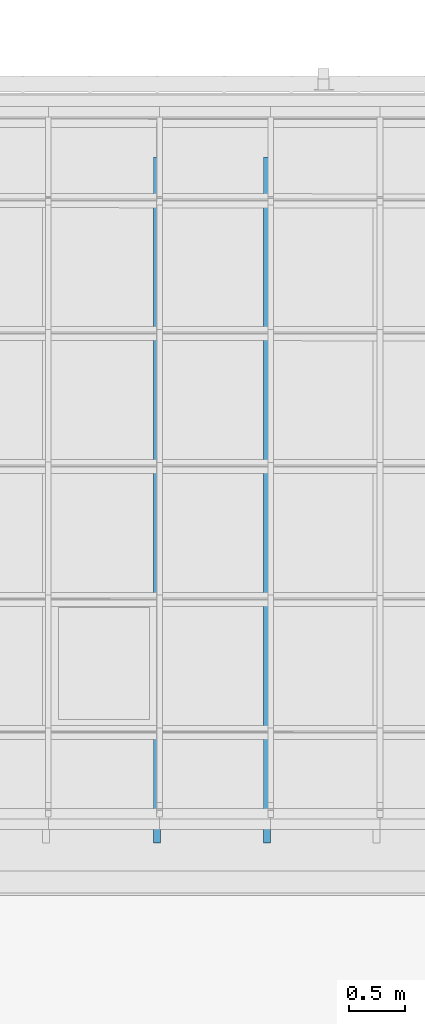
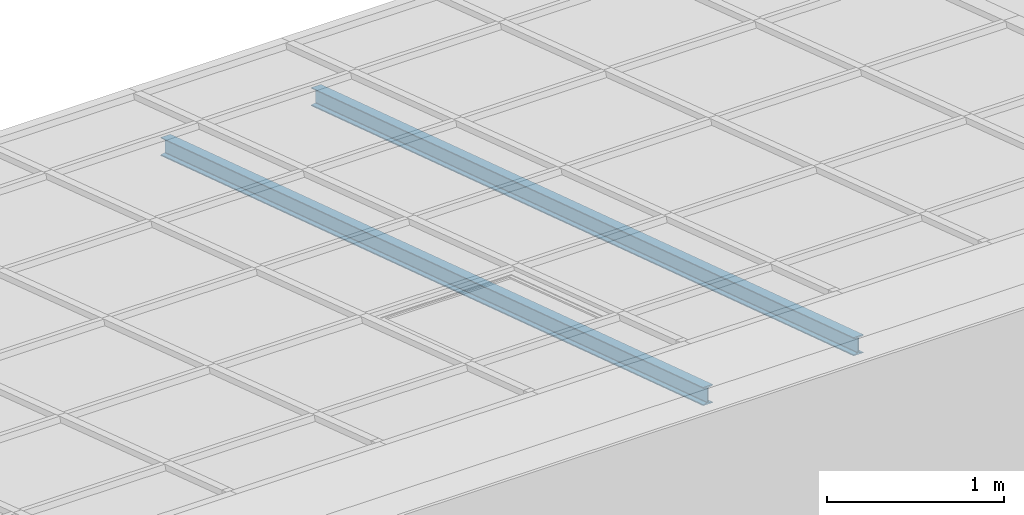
# One storey, part 11 of 47: 2 beams.
"""IFC2X3 building model written with IfcOpenShell, lengths in millimetres."""

from ifc_helpers import new_model, entity, si_unit, converted_unit, derived_unit, money_unit, point, direction, frame, frame_2d, origin_with_axes, place, context, subcontext, project, spatial, polyline, circle_curve, parameter, trimmed, segment, composite_curve, outline, extrude, clip, halfspace, material, type_object, element, save


model = new_model("IFC2X3")

# Units and contexts
model_context = context("Model", 3, precision=1e-05, world=origin_with_axes(), true_north=direction((0.0, 1.0)))
body_context = subcontext(model_context, "Body", "Model", "MODEL_VIEW")
ifc_project = project(units=[si_unit("LENGTHUNIT", "METRE", prefix="MILLI"), si_unit("AREAUNIT", "SQUARE_METRE"), si_unit("VOLUMEUNIT", "CUBIC_METRE"), converted_unit("PLANEANGLEUNIT", "DEGREE", entity("IfcPlaneAngleMeasure", 0.0174532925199), si_unit("PLANEANGLEUNIT", "RADIAN"), dimensions=[0, 0, 0, 0, 0, 0, 0]), si_unit("SOLIDANGLEUNIT", "STERADIAN"), money_unit("EUR"), converted_unit("TIMEUNIT", "Year", entity("IfcTimeMeasure", 31556926.0), si_unit("TIMEUNIT", "SECOND"), dimensions=[0, 0, 1, 0, 0, 0, 0]), si_unit("MASSUNIT", "GRAM", prefix="KILO"), si_unit("THERMODYNAMICTEMPERATUREUNIT", "DEGREE_CELSIUS"), si_unit("LUMINOUSINTENSITYUNIT", "LUMEN"), si_unit("ENERGYUNIT", "JOULE", prefix="MEGA"), derived_unit("THERMALCONDUCTANCEUNIT", [(si_unit("POWERUNIT", "WATT"), 1), (si_unit("LENGTHUNIT", "METRE"), -1), (si_unit("THERMODYNAMICTEMPERATUREUNIT", "KELVIN"), -1)]), derived_unit("SPECIFICHEATCAPACITYUNIT", [(si_unit("ENERGYUNIT", "JOULE"), 1), (si_unit("MASSUNIT", "GRAM", prefix="KILO"), -1), (si_unit("THERMODYNAMICTEMPERATUREUNIT", "KELVIN"), -1)]), derived_unit("MASSDENSITYUNIT", [(si_unit("MASSUNIT", "GRAM", prefix="KILO"), 1), (si_unit("VOLUMEUNIT", "CUBIC_METRE"), -1)])], contexts=[model_context])

# Site, building, storey
site_placement = place(None, origin_with_axes())
site = spatial("IfcSite", under=ifc_project, at=site_placement, Name="Site", CompositionType="ELEMENT")
building_placement = place(site_placement, origin_with_axes())
building = spatial("IfcBuilding", under=site, at=building_placement, Name="Building", CompositionType="ELEMENT")
storey_placement = place(building_placement, frame((0.0, 0.0, 6000.0), z_axis=(0.0, 0.0, 1.0), x_axis=(1.0, 0.0, 0.0)))
storey = spatial("IfcBuildingStorey", under=building, at=storey_placement, Name="KATUSEPLAAN", CompositionType="ELEMENT", Elevation=6000.0)

# Beams
ifc_material = material(Name="Teras (1)")
beam_type = type_object("IfcBeamType", Name="IPE 120", PredefinedType="NOTDEFINED")
beam_1_placement = place(storey_placement, frame((83889.081763, 46947.8063411, 711.763952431), z_axis=(0.0, 0.0, 1.0), x_axis=(-1.0, 0.0, 0.0)))
element("IfcBeam", 1, at=beam_1_placement, inside=storey, type_object=beam_type, material=ifc_material, Name="I Joist - Steel", ObjectType="I Joist - Steel 64 x 120", context=body_context, shape_type="Clipping", body=[
    clip(clip(extrude(outline(composite_curve([segment(polyline([(32.0018479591, -120.000212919), (32.0018479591, -117.505222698)]), True, "CONTINUOUS"), segment(trimmed(circle_curve(frame_2d((27.3321376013, -117.498683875), x_axis=(0.999999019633, -0.00140026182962)), 4.66971493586), [point((32.0018479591, -117.505222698)), parameter(0.0)], [point((31.7461003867, -115.974488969)), parameter(19.1306436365)], True, "CARTESIAN"), True, "CONTINUOUS"), segment(trimmed(circle_curve(frame_2d((27.8471066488, -117.309508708), x_axis=(0.94607823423, 0.323938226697)), 4.12121703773), [point((31.7461003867, -115.974488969)), parameter(0.0)], [point((31.017792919, -114.676795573)), parameter(20.802576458)], True, "CARTESIAN"), True, "CONTINUOUS"), segment(trimmed(circle_curve(frame_2d((28.4090653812, -116.837495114), x_axis=(0.770140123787, 0.637874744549)), 3.38734141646), [point((31.017792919, -114.676795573)), parameter(0.0)], [point((29.9278037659, -113.809704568)), parameter(23.7281511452)], True, "CARTESIAN"), True, "CONTINUOUS"), segment(trimmed(circle_curve(frame_2d((28.6333599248, -116.404648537), x_axis=(0.446378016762, 0.89484449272)), 2.89988259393), [point((29.9278037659, -113.809704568)), parameter(0.0)], [point((29.1110817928, -113.544386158)), parameter(17.0295027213)], True, "CARTESIAN"), True, "CONTINUOUS"), segment(polyline([(29.1110817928, -113.544386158), (5.24260801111, -109.566039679)]), True, "CONTINUOUS"), segment(trimmed(circle_curve(frame_2d((5.72032987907, -106.7057773), x_axis=(-0.446378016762, -0.89484449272)), 2.89988259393), [point((5.24260801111, -109.566039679)), parameter(17.0295027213)], [point((4.42588603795, -109.300721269)), parameter(0.0)], False, "CARTESIAN"), True, "CONTINUOUS"), segment(trimmed(circle_curve(frame_2d((5.94462442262, -106.272930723), x_axis=(-0.770140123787, -0.637874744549)), 3.38734141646), [point((4.42588603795, -109.300721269)), parameter(23.7281511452)], [point((3.33589688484, -108.433630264)), parameter(0.0)], False, "CARTESIAN"), True, "CONTINUOUS"), segment(trimmed(circle_curve(frame_2d((6.5065831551, -105.800917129), x_axis=(-0.94607823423, -0.323938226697)), 4.12121703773), [point((3.33589688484, -108.433630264)), parameter(20.802576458)], [point((2.60758941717, -107.135936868)), parameter(0.0)], False, "CARTESIAN"), True, "CONTINUOUS"), segment(trimmed(circle_curve(frame_2d((7.02155220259, -105.611741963), x_axis=(-0.999999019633, 0.00140026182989)), 4.66971493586), [point((2.60758941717, -107.135936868)), parameter(19.1306436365)], [point((2.35184184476, -105.605203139)), parameter(0.0)], False, "CARTESIAN"), True, "CONTINUOUS"), segment(polyline([(2.35184184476, -105.605203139), (2.35184184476, -14.3950097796)]), True, "CONTINUOUS"), segment(trimmed(circle_curve(frame_2d((7.02155220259, -14.3884709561), x_axis=(-0.945231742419, 0.326399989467)), 4.66971493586), [point((2.35184184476, -14.3950097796)), parameter(19.1306436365)], [point((2.60758941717, -12.8642760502)), parameter(0.0)], False, "CARTESIAN"), True, "CONTINUOUS"), segment(trimmed(circle_curve(frame_2d((6.5065831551, -14.1992957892), x_axis=(-0.769356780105, 0.638819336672)), 4.12121703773), [point((2.60758941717, -12.8642760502)), parameter(20.802576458)], [point((3.33589688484, -11.5665826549)), parameter(0.0)], False, "CARTESIAN"), True, "CONTINUOUS"), segment(trimmed(circle_curve(frame_2d((5.94462442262, -13.7272821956), x_axis=(-0.44835704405, 0.893854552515)), 3.38734141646), [point((3.33589688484, -11.5665826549)), parameter(23.7281511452)], [point((4.42588603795, -10.6994916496)), parameter(0.0)], False, "CARTESIAN"), True, "CONTINUOUS"), segment(trimmed(circle_curve(frame_2d((5.72032987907, -13.2944356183), x_axis=(-0.164738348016, 0.986337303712)), 2.89988259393), [point((4.42588603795, -10.6994916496)), parameter(17.0295027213)], [point((5.24260801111, -10.4341732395)), parameter(0.0)], False, "CARTESIAN"), True, "CONTINUOUS"), segment(polyline([(5.24260801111, -10.4341732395), (29.1110817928, -6.45582676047)]), True, "CONTINUOUS"), segment(trimmed(circle_curve(frame_2d((28.6333599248, -3.59556438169), x_axis=(0.164738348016, -0.986337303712)), 2.89988259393), [point((29.1110817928, -6.45582676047)), parameter(0.0)], [point((29.9278037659, -6.19050835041)), parameter(17.0295027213)], True, "CARTESIAN"), True, "CONTINUOUS"), segment(trimmed(circle_curve(frame_2d((28.4090653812, -3.16271780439), x_axis=(0.44835704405, -0.893854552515)), 3.38734141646), [point((29.9278037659, -6.19050835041)), parameter(0.0)], [point((31.017792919, -5.32341734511)), parameter(23.7281511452)], True, "CARTESIAN"), True, "CONTINUOUS"), segment(trimmed(circle_curve(frame_2d((27.8471066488, -2.69070421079), x_axis=(0.769356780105, -0.638819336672)), 4.12121703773), [point((31.017792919, -5.32341734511)), parameter(0.0)], [point((31.7461003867, -4.02572394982)), parameter(20.802576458)], True, "CARTESIAN"), True, "CONTINUOUS"), segment(trimmed(circle_curve(frame_2d((27.3321376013, -2.50152904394), x_axis=(0.945231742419, -0.326399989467)), 4.66971493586), [point((31.7461003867, -4.02572394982)), parameter(0.0)], [point((32.0018479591, -2.49499022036)), parameter(19.1306436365)], True, "CARTESIAN"), True, "CONTINUOUS"), segment(polyline([(32.0018479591, -2.49499022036), (32.0018479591, 0.0), (-32.0018479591, 0.0), (-32.0018479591, -2.49499022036)]), True, "CONTINUOUS"), segment(trimmed(circle_curve(frame_2d((-27.3321376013, -2.50152904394), x_axis=(-0.999999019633, 0.00140026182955)), 4.66971493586), [point((-32.0018479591, -2.49499022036)), parameter(0.0)], [point((-31.7461003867, -4.02572394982)), parameter(19.1306436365)], True, "CARTESIAN"), True, "CONTINUOUS"), segment(trimmed(circle_curve(frame_2d((-27.8471066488, -2.69070421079), x_axis=(-0.94607823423, -0.323938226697)), 4.12121703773), [point((-31.7461003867, -4.02572394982)), parameter(0.0)], [point((-31.017792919, -5.32341734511)), parameter(20.802576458)], True, "CARTESIAN"), True, "CONTINUOUS"), segment(trimmed(circle_curve(frame_2d((-28.4090653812, -3.16271780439), x_axis=(-0.770140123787, -0.637874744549)), 3.38734141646), [point((-31.017792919, -5.32341734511)), parameter(0.0)], [point((-29.9278037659, -6.19050835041)), parameter(23.7281511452)], True, "CARTESIAN"), True, "CONTINUOUS"), segment(trimmed(circle_curve(frame_2d((-28.6333599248, -3.59556438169), x_axis=(-0.446378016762, -0.89484449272)), 2.89988259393), [point((-29.9278037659, -6.19050835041)), parameter(0.0)], [point((-29.1110817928, -6.45582676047)), parameter(17.0295027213)], True, "CARTESIAN"), True, "CONTINUOUS"), segment(polyline([(-29.1110817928, -6.45582676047), (-5.24260801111, -10.4341732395)]), True, "CONTINUOUS"), segment(trimmed(circle_curve(frame_2d((-5.72032987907, -13.2944356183), x_axis=(0.446378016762, 0.89484449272)), 2.89988259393), [point((-5.24260801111, -10.4341732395)), parameter(17.0295027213)], [point((-4.42588603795, -10.6994916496)), parameter(0.0)], False, "CARTESIAN"), True, "CONTINUOUS"), segment(trimmed(circle_curve(frame_2d((-5.94462442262, -13.7272821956), x_axis=(0.770140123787, 0.637874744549)), 3.38734141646), [point((-4.42588603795, -10.6994916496)), parameter(23.7281511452)], [point((-3.33589688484, -11.5665826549)), parameter(0.0)], False, "CARTESIAN"), True, "CONTINUOUS"), segment(trimmed(circle_curve(frame_2d((-6.5065831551, -14.1992957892), x_axis=(0.94607823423, 0.323938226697)), 4.12121703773), [point((-3.33589688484, -11.5665826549)), parameter(20.802576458)], [point((-2.60758941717, -12.8642760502)), parameter(0.0)], False, "CARTESIAN"), True, "CONTINUOUS"), segment(trimmed(circle_curve(frame_2d((-7.02155220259, -14.3884709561), x_axis=(0.999999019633, -0.00140026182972)), 4.66971493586), [point((-2.60758941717, -12.8642760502)), parameter(19.1306436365)], [point((-2.35184184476, -14.3950097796)), parameter(0.0)], False, "CARTESIAN"), True, "CONTINUOUS"), segment(polyline([(-2.35184184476, -14.3950097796), (-2.35184184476, -105.605203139)]), True, "CONTINUOUS"), segment(trimmed(circle_curve(frame_2d((-7.02155220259, -105.611741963), x_axis=(0.945231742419, -0.326399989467)), 4.66971493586), [point((-2.35184184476, -105.605203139)), parameter(19.1306436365)], [point((-2.60758941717, -107.135936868)), parameter(0.0)], False, "CARTESIAN"), True, "CONTINUOUS"), segment(trimmed(circle_curve(frame_2d((-6.5065831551, -105.800917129), x_axis=(0.769356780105, -0.638819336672)), 4.12121703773), [point((-2.60758941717, -107.135936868)), parameter(20.802576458)], [point((-3.33589688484, -108.433630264)), parameter(0.0)], False, "CARTESIAN"), True, "CONTINUOUS"), segment(trimmed(circle_curve(frame_2d((-5.94462442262, -106.272930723), x_axis=(0.44835704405, -0.893854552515)), 3.38734141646), [point((-3.33589688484, -108.433630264)), parameter(23.7281511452)], [point((-4.42588603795, -109.300721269)), parameter(0.0)], False, "CARTESIAN"), True, "CONTINUOUS"), segment(trimmed(circle_curve(frame_2d((-5.72032987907, -106.7057773), x_axis=(0.164738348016, -0.986337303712)), 2.89988259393), [point((-4.42588603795, -109.300721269)), parameter(17.0295027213)], [point((-5.24260801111, -109.566039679)), parameter(0.0)], False, "CARTESIAN"), True, "CONTINUOUS"), segment(polyline([(-5.24260801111, -109.566039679), (-29.1110817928, -113.544386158)]), True, "CONTINUOUS"), segment(trimmed(circle_curve(frame_2d((-28.6333599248, -116.404648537), x_axis=(-0.164738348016, 0.986337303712)), 2.89988259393), [point((-29.1110817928, -113.544386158)), parameter(0.0)], [point((-29.9278037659, -113.809704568)), parameter(17.0295027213)], True, "CARTESIAN"), True, "CONTINUOUS"), segment(trimmed(circle_curve(frame_2d((-28.4090653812, -116.837495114), x_axis=(-0.44835704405, 0.893854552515)), 3.38734141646), [point((-29.9278037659, -113.809704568)), parameter(0.0)], [point((-31.017792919, -114.676795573)), parameter(23.7281511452)], True, "CARTESIAN"), True, "CONTINUOUS"), segment(trimmed(circle_curve(frame_2d((-27.8471066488, -117.309508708), x_axis=(-0.769356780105, 0.638819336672)), 4.12121703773), [point((-31.017792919, -114.676795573)), parameter(0.0)], [point((-31.7461003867, -115.974488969)), parameter(20.802576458)], True, "CARTESIAN"), True, "CONTINUOUS"), segment(trimmed(circle_curve(frame_2d((-27.3321376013, -117.498683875), x_axis=(-0.945231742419, 0.326399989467)), 4.66971493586), [point((-31.7461003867, -115.974488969)), parameter(0.0)], [point((-32.0018479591, -117.505222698)), parameter(19.1306436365)], True, "CARTESIAN"), True, "CONTINUOUS"), segment(polyline([(-32.0018479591, -117.505222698), (-32.0018479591, -120.000212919), (32.0018479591, -120.000212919)]), True, "CONTINUOUS")], self_intersect=False)), frame((0.0, 6177.44201598, 2007.17258333), z_axis=(0.0, 0.951056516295, 0.309016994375), x_axis=(-1.0, 0.0, 0.0)), (0.0, 0.0, -1.0), 6550.487721), halfspace(frame((0.0, 6125.0, 0.0), z_axis=(0.0, -1.0, 0.0), x_axis=(0.0, 0.0, -1.0)), True)), halfspace(frame((0.0, 0.0, 0.0), z_axis=(0.0, 1.0, 0.0), x_axis=(0.0, 0.0, 1.0)), True)),
])
beam_2_placement = place(storey_placement, frame((84870.0451771, 46947.8063411, 711.763952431), z_axis=(0.0, 0.0, 1.0), x_axis=(-1.0, 0.0, 0.0)))
element("IfcBeam", 2, at=beam_2_placement, inside=storey, type_object=beam_type, material=ifc_material, Name="I Joist - Steel", ObjectType="I Joist - Steel 64 x 120", context=body_context, shape_type="Clipping", body=[
    clip(clip(extrude(outline(composite_curve([segment(polyline([(32.0018479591, -120.000212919), (32.0018479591, -117.505222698)]), True, "CONTINUOUS"), segment(trimmed(circle_curve(frame_2d((27.3321376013, -117.498683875), x_axis=(0.999999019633, -0.00140026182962)), 4.66971493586), [point((32.0018479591, -117.505222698)), parameter(0.0)], [point((31.7461003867, -115.974488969)), parameter(19.1306436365)], True, "CARTESIAN"), True, "CONTINUOUS"), segment(trimmed(circle_curve(frame_2d((27.8471066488, -117.309508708), x_axis=(0.94607823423, 0.323938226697)), 4.12121703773), [point((31.7461003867, -115.974488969)), parameter(0.0)], [point((31.017792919, -114.676795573)), parameter(20.802576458)], True, "CARTESIAN"), True, "CONTINUOUS"), segment(trimmed(circle_curve(frame_2d((28.4090653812, -116.837495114), x_axis=(0.770140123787, 0.637874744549)), 3.38734141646), [point((31.017792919, -114.676795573)), parameter(0.0)], [point((29.9278037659, -113.809704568)), parameter(23.7281511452)], True, "CARTESIAN"), True, "CONTINUOUS"), segment(trimmed(circle_curve(frame_2d((28.6333599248, -116.404648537), x_axis=(0.446378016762, 0.89484449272)), 2.89988259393), [point((29.9278037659, -113.809704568)), parameter(0.0)], [point((29.1110817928, -113.544386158)), parameter(17.0295027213)], True, "CARTESIAN"), True, "CONTINUOUS"), segment(polyline([(29.1110817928, -113.544386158), (5.24260801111, -109.566039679)]), True, "CONTINUOUS"), segment(trimmed(circle_curve(frame_2d((5.72032987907, -106.7057773), x_axis=(-0.446378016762, -0.89484449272)), 2.89988259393), [point((5.24260801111, -109.566039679)), parameter(17.0295027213)], [point((4.42588603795, -109.300721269)), parameter(0.0)], False, "CARTESIAN"), True, "CONTINUOUS"), segment(trimmed(circle_curve(frame_2d((5.94462442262, -106.272930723), x_axis=(-0.770140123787, -0.637874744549)), 3.38734141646), [point((4.42588603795, -109.300721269)), parameter(23.7281511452)], [point((3.33589688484, -108.433630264)), parameter(0.0)], False, "CARTESIAN"), True, "CONTINUOUS"), segment(trimmed(circle_curve(frame_2d((6.5065831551, -105.800917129), x_axis=(-0.94607823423, -0.323938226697)), 4.12121703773), [point((3.33589688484, -108.433630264)), parameter(20.802576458)], [point((2.60758941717, -107.135936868)), parameter(0.0)], False, "CARTESIAN"), True, "CONTINUOUS"), segment(trimmed(circle_curve(frame_2d((7.02155220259, -105.611741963), x_axis=(-0.999999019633, 0.00140026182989)), 4.66971493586), [point((2.60758941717, -107.135936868)), parameter(19.1306436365)], [point((2.35184184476, -105.605203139)), parameter(0.0)], False, "CARTESIAN"), True, "CONTINUOUS"), segment(polyline([(2.35184184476, -105.605203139), (2.35184184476, -14.3950097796)]), True, "CONTINUOUS"), segment(trimmed(circle_curve(frame_2d((7.02155220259, -14.3884709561), x_axis=(-0.945231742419, 0.326399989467)), 4.66971493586), [point((2.35184184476, -14.3950097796)), parameter(19.1306436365)], [point((2.60758941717, -12.8642760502)), parameter(0.0)], False, "CARTESIAN"), True, "CONTINUOUS"), segment(trimmed(circle_curve(frame_2d((6.5065831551, -14.1992957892), x_axis=(-0.769356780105, 0.638819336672)), 4.12121703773), [point((2.60758941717, -12.8642760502)), parameter(20.802576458)], [point((3.33589688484, -11.5665826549)), parameter(0.0)], False, "CARTESIAN"), True, "CONTINUOUS"), segment(trimmed(circle_curve(frame_2d((5.94462442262, -13.7272821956), x_axis=(-0.44835704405, 0.893854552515)), 3.38734141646), [point((3.33589688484, -11.5665826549)), parameter(23.7281511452)], [point((4.42588603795, -10.6994916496)), parameter(0.0)], False, "CARTESIAN"), True, "CONTINUOUS"), segment(trimmed(circle_curve(frame_2d((5.72032987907, -13.2944356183), x_axis=(-0.164738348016, 0.986337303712)), 2.89988259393), [point((4.42588603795, -10.6994916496)), parameter(17.0295027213)], [point((5.24260801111, -10.4341732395)), parameter(0.0)], False, "CARTESIAN"), True, "CONTINUOUS"), segment(polyline([(5.24260801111, -10.4341732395), (29.1110817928, -6.45582676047)]), True, "CONTINUOUS"), segment(trimmed(circle_curve(frame_2d((28.6333599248, -3.59556438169), x_axis=(0.164738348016, -0.986337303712)), 2.89988259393), [point((29.1110817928, -6.45582676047)), parameter(0.0)], [point((29.9278037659, -6.19050835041)), parameter(17.0295027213)], True, "CARTESIAN"), True, "CONTINUOUS"), segment(trimmed(circle_curve(frame_2d((28.4090653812, -3.16271780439), x_axis=(0.44835704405, -0.893854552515)), 3.38734141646), [point((29.9278037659, -6.19050835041)), parameter(0.0)], [point((31.017792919, -5.32341734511)), parameter(23.7281511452)], True, "CARTESIAN"), True, "CONTINUOUS"), segment(trimmed(circle_curve(frame_2d((27.8471066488, -2.69070421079), x_axis=(0.769356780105, -0.638819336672)), 4.12121703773), [point((31.017792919, -5.32341734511)), parameter(0.0)], [point((31.7461003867, -4.02572394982)), parameter(20.802576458)], True, "CARTESIAN"), True, "CONTINUOUS"), segment(trimmed(circle_curve(frame_2d((27.3321376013, -2.50152904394), x_axis=(0.945231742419, -0.326399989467)), 4.66971493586), [point((31.7461003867, -4.02572394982)), parameter(0.0)], [point((32.0018479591, -2.49499022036)), parameter(19.1306436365)], True, "CARTESIAN"), True, "CONTINUOUS"), segment(polyline([(32.0018479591, -2.49499022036), (32.0018479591, 0.0), (-32.0018479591, 0.0), (-32.0018479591, -2.49499022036)]), True, "CONTINUOUS"), segment(trimmed(circle_curve(frame_2d((-27.3321376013, -2.50152904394), x_axis=(-0.999999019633, 0.00140026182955)), 4.66971493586), [point((-32.0018479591, -2.49499022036)), parameter(0.0)], [point((-31.7461003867, -4.02572394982)), parameter(19.1306436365)], True, "CARTESIAN"), True, "CONTINUOUS"), segment(trimmed(circle_curve(frame_2d((-27.8471066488, -2.69070421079), x_axis=(-0.94607823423, -0.323938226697)), 4.12121703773), [point((-31.7461003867, -4.02572394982)), parameter(0.0)], [point((-31.017792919, -5.32341734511)), parameter(20.802576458)], True, "CARTESIAN"), True, "CONTINUOUS"), segment(trimmed(circle_curve(frame_2d((-28.4090653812, -3.16271780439), x_axis=(-0.770140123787, -0.637874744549)), 3.38734141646), [point((-31.017792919, -5.32341734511)), parameter(0.0)], [point((-29.9278037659, -6.19050835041)), parameter(23.7281511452)], True, "CARTESIAN"), True, "CONTINUOUS"), segment(trimmed(circle_curve(frame_2d((-28.6333599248, -3.59556438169), x_axis=(-0.446378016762, -0.89484449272)), 2.89988259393), [point((-29.9278037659, -6.19050835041)), parameter(0.0)], [point((-29.1110817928, -6.45582676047)), parameter(17.0295027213)], True, "CARTESIAN"), True, "CONTINUOUS"), segment(polyline([(-29.1110817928, -6.45582676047), (-5.24260801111, -10.4341732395)]), True, "CONTINUOUS"), segment(trimmed(circle_curve(frame_2d((-5.72032987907, -13.2944356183), x_axis=(0.446378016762, 0.89484449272)), 2.89988259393), [point((-5.24260801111, -10.4341732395)), parameter(17.0295027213)], [point((-4.42588603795, -10.6994916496)), parameter(0.0)], False, "CARTESIAN"), True, "CONTINUOUS"), segment(trimmed(circle_curve(frame_2d((-5.94462442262, -13.7272821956), x_axis=(0.770140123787, 0.637874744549)), 3.38734141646), [point((-4.42588603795, -10.6994916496)), parameter(23.7281511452)], [point((-3.33589688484, -11.5665826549)), parameter(0.0)], False, "CARTESIAN"), True, "CONTINUOUS"), segment(trimmed(circle_curve(frame_2d((-6.5065831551, -14.1992957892), x_axis=(0.94607823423, 0.323938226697)), 4.12121703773), [point((-3.33589688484, -11.5665826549)), parameter(20.802576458)], [point((-2.60758941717, -12.8642760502)), parameter(0.0)], False, "CARTESIAN"), True, "CONTINUOUS"), segment(trimmed(circle_curve(frame_2d((-7.02155220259, -14.3884709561), x_axis=(0.999999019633, -0.00140026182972)), 4.66971493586), [point((-2.60758941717, -12.8642760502)), parameter(19.1306436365)], [point((-2.35184184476, -14.3950097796)), parameter(0.0)], False, "CARTESIAN"), True, "CONTINUOUS"), segment(polyline([(-2.35184184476, -14.3950097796), (-2.35184184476, -105.605203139)]), True, "CONTINUOUS"), segment(trimmed(circle_curve(frame_2d((-7.02155220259, -105.611741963), x_axis=(0.945231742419, -0.326399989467)), 4.66971493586), [point((-2.35184184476, -105.605203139)), parameter(19.1306436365)], [point((-2.60758941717, -107.135936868)), parameter(0.0)], False, "CARTESIAN"), True, "CONTINUOUS"), segment(trimmed(circle_curve(frame_2d((-6.5065831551, -105.800917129), x_axis=(0.769356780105, -0.638819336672)), 4.12121703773), [point((-2.60758941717, -107.135936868)), parameter(20.802576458)], [point((-3.33589688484, -108.433630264)), parameter(0.0)], False, "CARTESIAN"), True, "CONTINUOUS"), segment(trimmed(circle_curve(frame_2d((-5.94462442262, -106.272930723), x_axis=(0.44835704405, -0.893854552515)), 3.38734141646), [point((-3.33589688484, -108.433630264)), parameter(23.7281511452)], [point((-4.42588603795, -109.300721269)), parameter(0.0)], False, "CARTESIAN"), True, "CONTINUOUS"), segment(trimmed(circle_curve(frame_2d((-5.72032987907, -106.7057773), x_axis=(0.164738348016, -0.986337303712)), 2.89988259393), [point((-4.42588603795, -109.300721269)), parameter(17.0295027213)], [point((-5.24260801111, -109.566039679)), parameter(0.0)], False, "CARTESIAN"), True, "CONTINUOUS"), segment(polyline([(-5.24260801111, -109.566039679), (-29.1110817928, -113.544386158)]), True, "CONTINUOUS"), segment(trimmed(circle_curve(frame_2d((-28.6333599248, -116.404648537), x_axis=(-0.164738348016, 0.986337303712)), 2.89988259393), [point((-29.1110817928, -113.544386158)), parameter(0.0)], [point((-29.9278037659, -113.809704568)), parameter(17.0295027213)], True, "CARTESIAN"), True, "CONTINUOUS"), segment(trimmed(circle_curve(frame_2d((-28.4090653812, -116.837495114), x_axis=(-0.44835704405, 0.893854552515)), 3.38734141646), [point((-29.9278037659, -113.809704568)), parameter(0.0)], [point((-31.017792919, -114.676795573)), parameter(23.7281511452)], True, "CARTESIAN"), True, "CONTINUOUS"), segment(trimmed(circle_curve(frame_2d((-27.8471066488, -117.309508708), x_axis=(-0.769356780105, 0.638819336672)), 4.12121703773), [point((-31.017792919, -114.676795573)), parameter(0.0)], [point((-31.7461003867, -115.974488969)), parameter(20.802576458)], True, "CARTESIAN"), True, "CONTINUOUS"), segment(trimmed(circle_curve(frame_2d((-27.3321376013, -117.498683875), x_axis=(-0.945231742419, 0.326399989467)), 4.66971493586), [point((-31.7461003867, -115.974488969)), parameter(0.0)], [point((-32.0018479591, -117.505222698)), parameter(19.1306436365)], True, "CARTESIAN"), True, "CONTINUOUS"), segment(polyline([(-32.0018479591, -117.505222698), (-32.0018479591, -120.000212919), (32.0018479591, -120.000212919)]), True, "CONTINUOUS")], self_intersect=False)), frame((0.0, 6177.44201598, 2007.17258333), z_axis=(0.0, 0.951056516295, 0.309016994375), x_axis=(-1.0, 0.0, 0.0)), (0.0, 0.0, -1.0), 6550.487721), halfspace(frame((0.0, 6125.0, 0.0), z_axis=(0.0, -1.0, 0.0), x_axis=(0.0, 0.0, -1.0)), True)), halfspace(frame((0.0, 0.0, 0.0), z_axis=(0.0, 1.0, 0.0), x_axis=(0.0, 0.0, 1.0)), True)),
])

save(model, "model.ifc")
